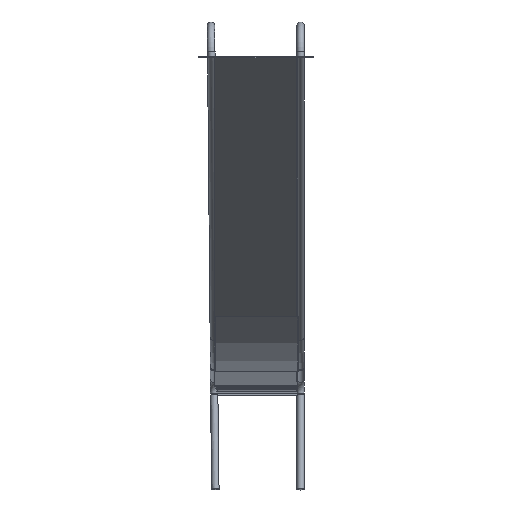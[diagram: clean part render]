
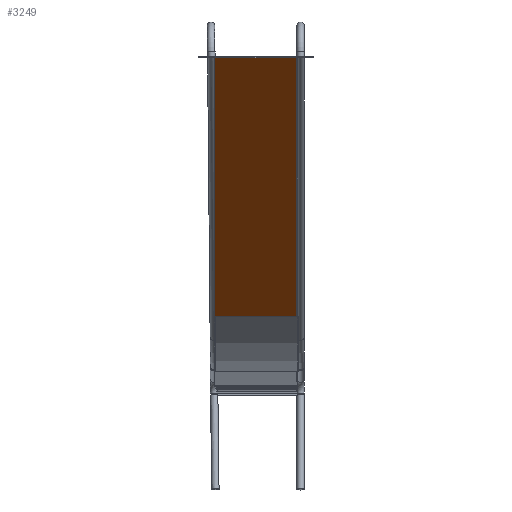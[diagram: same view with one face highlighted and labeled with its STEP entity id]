
A CAD part, left-side view. The second image highlights one B-rep face of the part: STEP entity #3249.
In plain terms, the highlighted planar face has unit normal (-0.616, 0, -0.788) as drawn and (0, 0, 1) by its records, which use the part's own axes.
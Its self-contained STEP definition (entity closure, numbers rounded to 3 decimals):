
#240=FACE_OUTER_BOUND('',#443,.T.);
#443=EDGE_LOOP('',(#2321,#2322,#2323,#2324,#2325,#2326,#2327,#2328));
#744=LINE('',#4960,#1071);
#762=LINE('',#5002,#1089);
#764=LINE('',#5006,#1091);
#779=LINE('',#5136,#1106);
#799=LINE('',#5184,#1126);
#800=LINE('',#5186,#1127);
#802=LINE('',#5190,#1129);
#804=LINE('',#5210,#1131);
#1071=VECTOR('',#3954,10.);
#1089=VECTOR('',#3996,10.);
#1091=VECTOR('',#4000,10.);
#1106=VECTOR('',#4027,10.);
#1126=VECTOR('',#4079,10.);
#1127=VECTOR('',#4082,10.);
#1129=VECTOR('',#4086,10.);
#1131=VECTOR('',#4094,10.);
#1395=VERTEX_POINT('',#4935);
#1400=VERTEX_POINT('',#4947);
#1413=VERTEX_POINT('',#4980);
#1417=VERTEX_POINT('',#4995);
#1418=VERTEX_POINT('',#5005);
#1424=VERTEX_POINT('',#5021);
#1442=VERTEX_POINT('',#5182);
#1443=VERTEX_POINT('',#5188);
#1687=EDGE_CURVE('',#1395,#1400,#744,.T.);
#1709=EDGE_CURVE('',#1413,#1417,#762,.T.);
#1711=EDGE_CURVE('',#1413,#1418,#764,.T.);
#1730=EDGE_CURVE('',#1395,#1424,#779,.T.);
#1754=EDGE_CURVE('',#1442,#1417,#799,.T.);
#1755=EDGE_CURVE('',#1418,#1424,#800,.T.);
#1757=EDGE_CURVE('',#1443,#1442,#802,.T.);
#1762=EDGE_CURVE('',#1443,#1400,#804,.T.);
#2321=ORIENTED_EDGE('',*,*,#1709,.T.);
#2322=ORIENTED_EDGE('',*,*,#1754,.F.);
#2323=ORIENTED_EDGE('',*,*,#1757,.F.);
#2324=ORIENTED_EDGE('',*,*,#1762,.T.);
#2325=ORIENTED_EDGE('',*,*,#1687,.F.);
#2326=ORIENTED_EDGE('',*,*,#1730,.T.);
#2327=ORIENTED_EDGE('',*,*,#1755,.F.);
#2328=ORIENTED_EDGE('',*,*,#1711,.F.);
#3105=PLANE('',#3633);
#3249=ADVANCED_FACE('',(#240),#3105,.F.);
#3633=AXIS2_PLACEMENT_3D('',#5303,#4104,#4105);
#3954=DIRECTION('',(0.,1.,0.));
#3996=DIRECTION('',(0.,1.,0.));
#4000=DIRECTION('',(-1.,0.,0.));
#4027=DIRECTION('',(1.,0.,0.));
#4079=DIRECTION('',(1.,0.,0.));
#4082=DIRECTION('',(0.,-1.,0.));
#4086=DIRECTION('',(0.,-1.,0.));
#4094=DIRECTION('',(-1.,0.,0.));
#4104=DIRECTION('center_axis',(0.,0.,-1.));
#4105=DIRECTION('ref_axis',(0.,1.,0.));
#4935=CARTESIAN_POINT('',(-2277.964,4.,-540.524));
#4947=CARTESIAN_POINT('',(-2277.964,427.476,-540.524));
#4960=CARTESIAN_POINT('',(-2277.964,-146.262,-540.524));
#4980=CARTESIAN_POINT('',(-97.342,5.765,-540.524));
#4995=CARTESIAN_POINT('',(-97.342,425.765,-540.524));
#5002=CARTESIAN_POINT('',(-97.342,320.765,-540.524));
#5005=CARTESIAN_POINT('',(-98.919,5.765,-540.524));
#5006=CARTESIAN_POINT('',(-97.009,5.765,-540.524));
#5021=CARTESIAN_POINT('',(-98.919,4.,-540.524));
#5136=CARTESIAN_POINT('',(-315.82,4.,-540.524));
#5182=CARTESIAN_POINT('',(-98.919,425.765,-540.524));
#5184=CARTESIAN_POINT('',(-98.919,425.765,-540.524));
#5186=CARTESIAN_POINT('',(-98.919,5.765,-540.524));
#5188=CARTESIAN_POINT('',(-98.919,427.476,-540.524));
#5190=CARTESIAN_POINT('',(-98.919,430.289,-540.524));
#5210=CARTESIAN_POINT('',(-152.797,427.476,-540.524));
#5303=CARTESIAN_POINT('Origin',(-206.675,215.765,-540.524));
